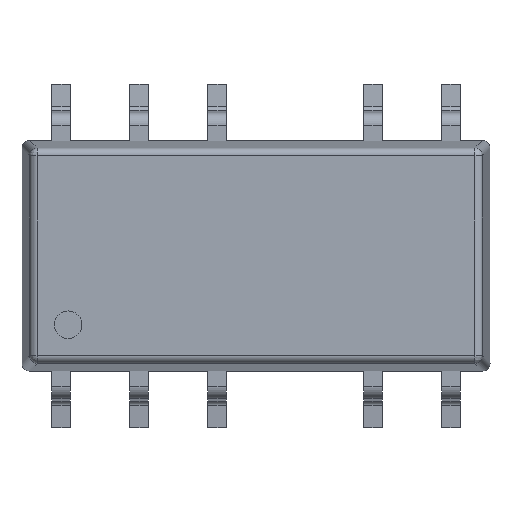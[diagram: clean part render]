
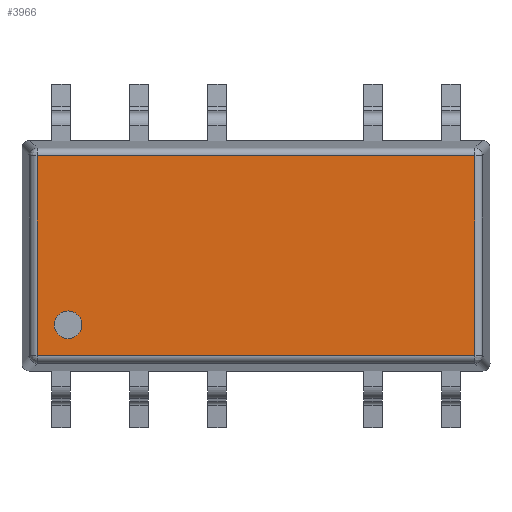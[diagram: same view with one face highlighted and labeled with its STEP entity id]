
A CAD part, top view. The second image highlights one B-rep face of the part: STEP entity #3966.
In plain terms, the highlighted planar face has unit normal (0, 0, 1).
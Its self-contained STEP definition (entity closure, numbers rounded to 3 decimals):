
#177=CARTESIAN_POINT('',(-8.64,-6.415,4.25));
#178=DIRECTION('',(0.,0.,1.));
#179=DIRECTION('',(-1.,0.004,0.));
#180=AXIS2_PLACEMENT_3D('',#177,#178,#179);
#185=CARTESIAN_POINT('',(-8.64,-6.415,4.25));
#186=DIRECTION('',(0.,0.,1.));
#187=DIRECTION('',(1.,-0.003,0.));
#188=AXIS2_PLACEMENT_3D('',#185,#186,#187);
#193=DIRECTION('',(0.,-1.,0.));
#194=VECTOR('',#193,6.51);
#195=CARTESIAN_POINT('',(-9.645,-0.91,4.25));
#196=LINE('',#195,#194);
#1481=DIRECTION('',(1.,0.,0.));
#1482=VECTOR('',#1481,14.25);
#1483=CARTESIAN_POINT('',(-9.645,-7.42,4.25));
#1484=LINE('',#1483,#1482);
#1597=DIRECTION('',(0.,1.,0.));
#1598=VECTOR('',#1597,6.51);
#1599=CARTESIAN_POINT('',(4.605,-7.42,4.25));
#1600=LINE('',#1599,#1598);
#2100=DIRECTION('',(-1.,0.,0.));
#2101=VECTOR('',#2100,14.25);
#2102=CARTESIAN_POINT('',(4.605,-0.91,4.25));
#2103=LINE('',#2102,#2101);
#3364=CARTESIAN_POINT('',(-9.09,-6.413,4.25));
#3365=VERTEX_POINT('',#3364);
#3366=CARTESIAN_POINT('',(-8.19,-6.416,4.25));
#3367=VERTEX_POINT('',#3366);
#3368=CARTESIAN_POINT('',(-9.645,-0.91,4.25));
#3369=CARTESIAN_POINT('',(-9.645,-7.42,4.25));
#3370=VERTEX_POINT('',#3368);
#3371=VERTEX_POINT('',#3369);
#3372=CARTESIAN_POINT('',(4.605,-0.91,4.25));
#3373=VERTEX_POINT('',#3372);
#3374=CARTESIAN_POINT('',(4.605,-7.42,4.25));
#3375=VERTEX_POINT('',#3374);
#3947=CARTESIAN_POINT('',(-2.52,-4.165,4.25));
#3948=DIRECTION('',(0.,0.,1.));
#3949=DIRECTION('',(1.,0.,0.));
#3950=AXIS2_PLACEMENT_3D('',#3947,#3948,#3949);
#3951=PLANE('',#3950);
#3953=ORIENTED_EDGE('',*,*,#3952,.F.);
#3955=ORIENTED_EDGE('',*,*,#3954,.F.);
#3957=ORIENTED_EDGE('',*,*,#3956,.F.);
#3959=ORIENTED_EDGE('',*,*,#3958,.F.);
#3960=EDGE_LOOP('',(#3953,#3955,#3957,#3959));
#3961=FACE_OUTER_BOUND('',#3960,.F.);
#3962=ORIENTED_EDGE('',*,*,#3941,.T.);
#3963=ORIENTED_EDGE('',*,*,#3916,.T.);
#3964=EDGE_LOOP('',(#3962,#3963));
#3965=FACE_BOUND('',#3964,.F.);
#181=CIRCLE('',#180,0.45);
#189=CIRCLE('',#188,0.45);
#3916=EDGE_CURVE('',#3367,#3365,#189,.T.);
#3941=EDGE_CURVE('',#3365,#3367,#181,.T.);
#3952=EDGE_CURVE('',#3370,#3371,#196,.T.);
#3954=EDGE_CURVE('',#3373,#3370,#2103,.T.);
#3956=EDGE_CURVE('',#3375,#3373,#1600,.T.);
#3958=EDGE_CURVE('',#3371,#3375,#1484,.T.);
#3966=ADVANCED_FACE('',(#3961,#3965),#3951,.T.);
